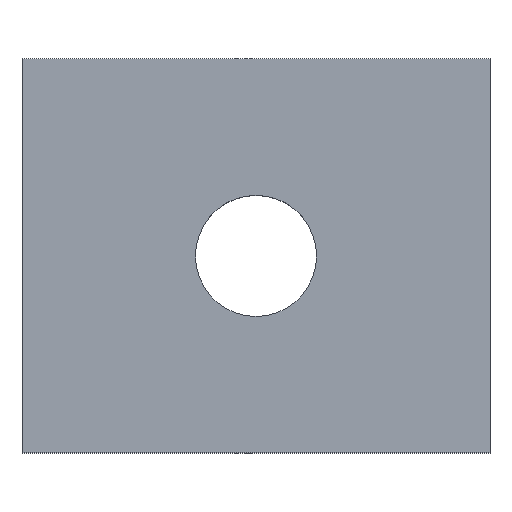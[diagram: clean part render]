
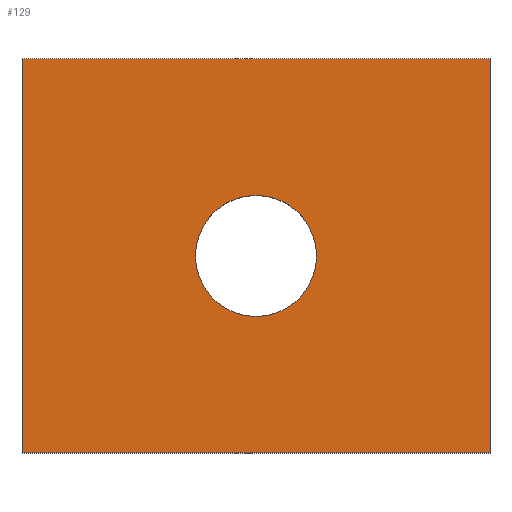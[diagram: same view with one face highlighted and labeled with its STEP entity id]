
A CAD part, top view. The second image highlights one B-rep face of the part: STEP entity #129.
In plain terms, the highlighted planar face has unit normal (0, 0, 1).
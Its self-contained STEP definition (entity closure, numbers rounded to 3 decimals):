
#21=CIRCLE('',#142,2.459);
#39=ORIENTED_EDGE('',*,*,#63,.T.);
#40=ORIENTED_EDGE('',*,*,#53,.T.);
#41=ORIENTED_EDGE('',*,*,#57,.T.);
#42=ORIENTED_EDGE('',*,*,#60,.T.);
#43=ORIENTED_EDGE('',*,*,#62,.T.);
#53=EDGE_CURVE('',#68,#67,#77,.T.);
#57=EDGE_CURVE('',#67,#70,#81,.T.);
#60=EDGE_CURVE('',#70,#72,#84,.T.);
#62=EDGE_CURVE('',#72,#68,#86,.T.);
#63=EDGE_CURVE('',#73,#73,#21,.T.);
#67=VERTEX_POINT('',#184);
#68=VERTEX_POINT('',#186);
#70=VERTEX_POINT('',#192);
#72=VERTEX_POINT('',#198);
#73=VERTEX_POINT('',#205);
#77=LINE('',#185,#89);
#81=LINE('',#193,#93);
#84=LINE('',#199,#96);
#86=LINE('',#202,#98);
#89=VECTOR('',#152,1000.);
#93=VECTOR('',#158,1000.);
#96=VECTOR('',#163,1000.);
#98=VECTOR('',#167,1000.);
#103=EDGE_LOOP('',(#39));
#104=EDGE_LOOP('',(#40,#41,#42,#43));
#113=FACE_BOUND('',#103,.T.);
#114=FACE_BOUND('',#104,.T.);
#123=PLANE('',#141);
#129=ADVANCED_FACE('',(#113,#114),#123,.T.);
#141=AXIS2_PLACEMENT_3D('',#203,#168,#169);
#142=AXIS2_PLACEMENT_3D('',#204,#170,#171);
#152=DIRECTION('',(0.,-1.,0.));
#158=DIRECTION('',(1.,0.,0.));
#163=DIRECTION('',(0.,1.,0.));
#167=DIRECTION('',(-1.,0.,0.));
#168=DIRECTION('',(0.,0.,1.));
#169=DIRECTION('',(1.,0.,0.));
#170=DIRECTION('',(0.,0.,-1.));
#171=DIRECTION('',(-1.,0.,0.));
#184=CARTESIAN_POINT('',(-9.5,-8.,2.));
#185=CARTESIAN_POINT('',(-9.5,8.,2.));
#186=CARTESIAN_POINT('',(-9.5,8.,2.));
#192=CARTESIAN_POINT('',(9.5,-8.,2.));
#193=CARTESIAN_POINT('',(-9.5,-8.,2.));
#198=CARTESIAN_POINT('',(9.5,8.,2.));
#199=CARTESIAN_POINT('',(9.5,-8.,2.));
#202=CARTESIAN_POINT('',(9.5,8.,2.));
#203=CARTESIAN_POINT('',(0.,0.,2.));
#204=CARTESIAN_POINT('',(0.,0.,2.));
#205=CARTESIAN_POINT('',(-2.459,0.,2.));
